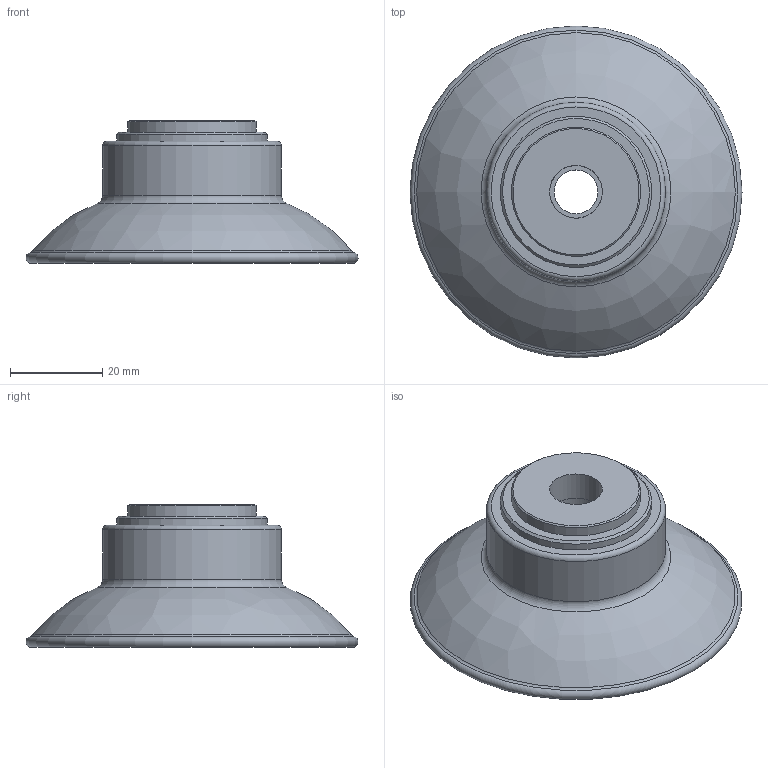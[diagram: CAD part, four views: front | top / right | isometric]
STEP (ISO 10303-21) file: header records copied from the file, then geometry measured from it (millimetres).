
FILE_DESCRIPTION( ( 'Unknown' ), '1' );
FILE_NAME( 'D:/弥龋覆(冠固急)/Smart Cup/寇何侩-唱荤魂TYPE/FCF70-14F.stp', 'Unknown', ( 'Unknown' ), ( 'Unknown' ), 'PSStep 10.0', 'Unknown', ' ' );
FILE_SCHEMA( ( 'AUTOMOTIVE_DESIGN { 1 0 10303 214 1 1 1 1 }' ) );
Length unit declared in the file: millimetre
Products named in the file (3): Assem1; FCF70; VDF-FCF-14F
Bounding box: 71.99 x 71.99 x 31 mm (x, y, z)
Volume: 53144.2 mm3; surface area: 40365.2 mm2
Topology: 4 solids, 4 shells, 108 faces, 186 edges, 108 vertices
Faces by surface type: cylinder 32, plane 30, cone 26, torus 14, bspline 6
Full cylindrical faces by diameter (mm): 9.5 x2, 11.445 x2, 16 x4, 16.8 x4, 18 x4, 28 x2, 30.8 x4, 32.8 x6, 38.8 x2, 56.9 x2
Entity records: 1645 total; most frequent: CARTESIAN_POINT 246, DIRECTION 216, AXIS2_PLACEMENT_3D 108, EDGE_LOOP 108, ORIENTED_EDGE 108, FACE_OUTER_BOUND 80, STYLED_ITEM 54, PRESENTATION_STYLE_ASSIGNMENT 54
